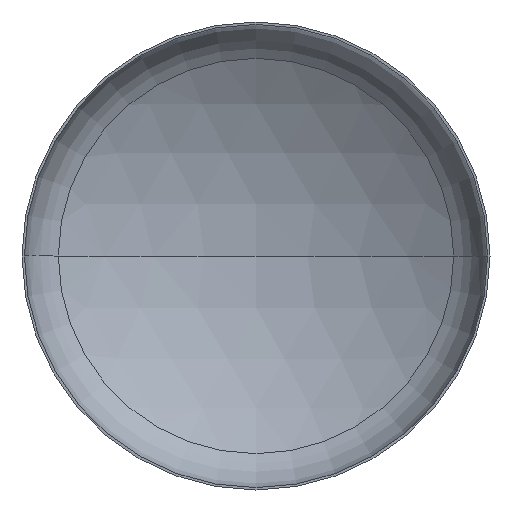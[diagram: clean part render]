
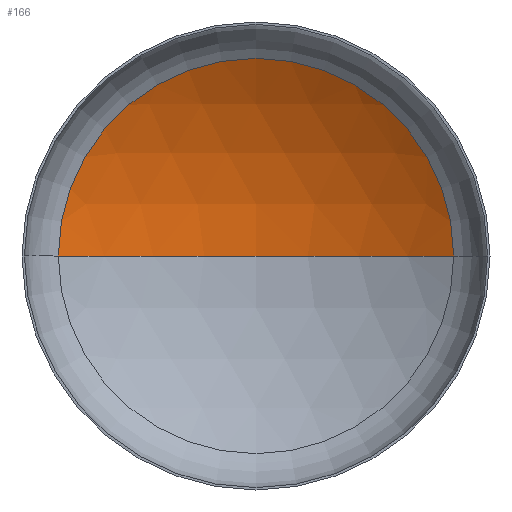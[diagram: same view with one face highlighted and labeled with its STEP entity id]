
A CAD part, front view. The second image highlights one B-rep face of the part: STEP entity #166.
In plain terms, the highlighted spherical face has radius 6400 mm.
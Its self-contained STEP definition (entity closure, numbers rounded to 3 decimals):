
#25 = DIRECTION ( 'NONE',  ( -1., 0., 0. ) ) ;
#44 = AXIS2_PLACEMENT_3D ( 'NONE', #237, #253, #181 ) ;
#54 = VERTEX_POINT ( 'NONE', #247 ) ;
#77 = ORIENTED_EDGE ( 'NONE', *, *, #141, .T. ) ;
#85 = ORIENTED_EDGE ( 'NONE', *, *, #143, .T. ) ;
#86 = AXIS2_PLACEMENT_3D ( 'NONE', #307, #260, #390 ) ;
#87 = EDGE_LOOP ( 'NONE', ( #290, #85, #77 ) ) ;
#88 = AXIS2_PLACEMENT_3D ( 'NONE', #408, #109, #25 ) ;
#91 = AXIS2_PLACEMENT_3D ( 'NONE', #202, #190, #347 ) ;
#94 = VERTEX_POINT ( 'NONE', #234 ) ;
#104 = VERTEX_POINT ( 'NONE', #230 ) ;
#107 = CIRCLE ( 'NONE', #88, 6400. ) ;
#109 = DIRECTION ( 'NONE',  ( 0., 0., -1. ) ) ;
#141 = EDGE_CURVE ( 'NONE', #94, #54, #200, .T. ) ;
#143 = EDGE_CURVE ( 'NONE', #104, #94, #107, .T. ) ;
#144 = EDGE_CURVE ( 'NONE', #104, #54, #321, .T. ) ;
#166 = ADVANCED_FACE ( 'NONE', ( #316 ), #192, .F. ) ;
#181 = DIRECTION ( 'NONE',  ( -1., 0., 0. ) ) ;
#190 = DIRECTION ( 'NONE',  ( 0., -1., 0. ) ) ;
#192 = SPHERICAL_SURFACE ( 'NONE', #44, 6400. ) ;
#200 = CIRCLE ( 'NONE', #91, 3378.259 ) ;
#202 = CARTESIAN_POINT ( 'NONE',  ( 0., 1174.683, 0. ) ) ;
#230 = CARTESIAN_POINT ( 'NONE',  ( 0., 2138.934, 0. ) ) ;
#234 = CARTESIAN_POINT ( 'NONE',  ( 3378.259, 1174.683, 0. ) ) ;
#237 = CARTESIAN_POINT ( 'NONE',  ( 0., -4261.066, 0. ) ) ;
#247 = CARTESIAN_POINT ( 'NONE',  ( -3378.259, 1174.683, 0. ) ) ;
#253 = DIRECTION ( 'NONE',  ( 0., 0., -1. ) ) ;
#260 = DIRECTION ( 'NONE',  ( 0., 0., 1. ) ) ;
#290 = ORIENTED_EDGE ( 'NONE', *, *, #144, .F. ) ;
#307 = CARTESIAN_POINT ( 'NONE',  ( 0., -4261.066, 0. ) ) ;
#316 = FACE_OUTER_BOUND ( 'NONE', #87, .T. ) ;
#321 = CIRCLE ( 'NONE', #86, 6400. ) ;
#347 = DIRECTION ( 'NONE',  ( 1., 0., 0. ) ) ;
#390 = DIRECTION ( 'NONE',  ( 1., 0., 0. ) ) ;
#408 = CARTESIAN_POINT ( 'NONE',  ( 0., -4261.066, 0. ) ) ;
